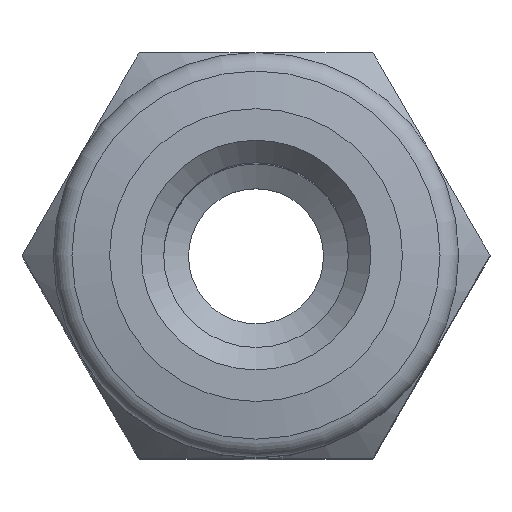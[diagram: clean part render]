
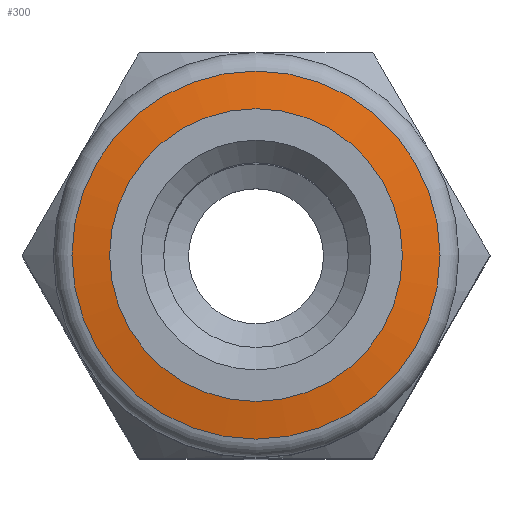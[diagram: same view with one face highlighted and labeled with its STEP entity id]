
A CAD part, top view. The second image highlights one B-rep face of the part: STEP entity #300.
In plain terms, the highlighted conical face has half-angle 80 degrees and reference radius 4.087 mm.
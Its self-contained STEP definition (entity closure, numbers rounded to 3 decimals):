
#300=ADVANCED_FACE('', (#310,#320), #330, .T.);
#2460=AXIS2_PLACEMENT_3D('Ax2Pl3d', #2470, #2480, #2490);
#2500=AXIS2_PLACEMENT_3D('Ax2Pl3d', #2510, #2520, #2530);
#2540=AXIS2_PLACEMENT_3D('Ax2Pl3d', #2550, #2560, #2570);
#2470=CARTESIAN_POINT('HicPkt', (43.52,-90.291,
59.872));
#7310=CARTESIAN_POINT('', (47.606,-90.291,59.872));
#2510=CARTESIAN_POINT('HicPkt', (43.52,-90.291,
59.872));
#2550=CARTESIAN_POINT('HicPkt', (43.52,-90.291,
60.019));
#7320=CARTESIAN_POINT('', (46.77,-90.291,60.019));
#8010=CIRCLE('Circle', #2460, 4.087);
#8020=CIRCLE('Circle', #2540, 3.25);
#330=CONICAL_SURFACE('Kegel', #2500, 4.087, 1.396)
;
#2480=DIRECTION('Axis', (0.,0.,1.));
#2490=DIRECTION('RefDirection', (1.,0.,-0.));
#2520=DIRECTION('Axis', (0.,0.,-1.));
#2530=DIRECTION('RefDirection', (-1.,-0.,0.));
#2560=DIRECTION('Axis', (0.,0.,1.));
#2570=DIRECTION('RefDirection', (1.,0.,-0.));
#11410=EDGE_CURVE('', #11420, #11420, #8010, .T.);
#11430=EDGE_CURVE('', #11440, #11440, #8020, .T.);
#12870=EDGE_LOOP('Edge_loop', (#12880));
#12890=EDGE_LOOP('Edge_loop', (#12900));
#320=FACE_BOUND('', #12890, .T.);
#310=FACE_OUTER_BOUND('Face_outer_bound', #12870, .T.);
#12880=ORIENTED_EDGE('', *, *, #11410, .T.);
#12900=ORIENTED_EDGE('', *, *, #11430, .F.);
#11420=VERTEX_POINT('', #7310);
#11440=VERTEX_POINT('', #7320);
